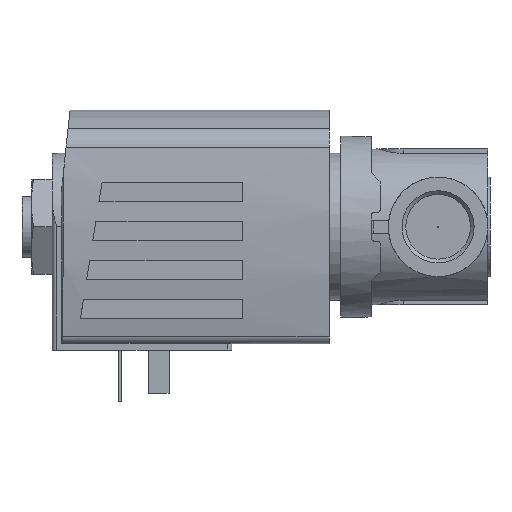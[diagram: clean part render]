
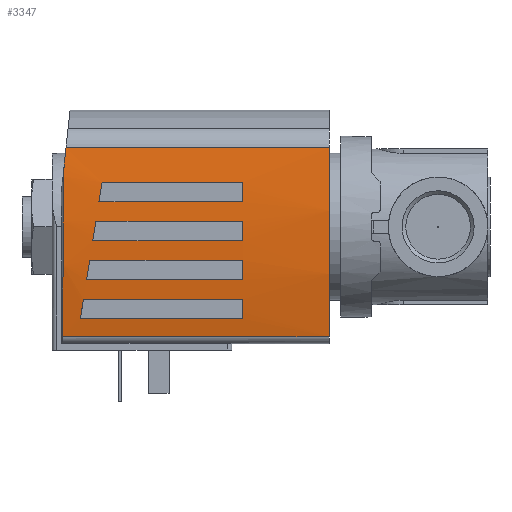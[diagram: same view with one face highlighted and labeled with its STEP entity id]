
A CAD part, left-side view. The second image highlights one B-rep face of the part: STEP entity #3347.
In plain terms, the highlighted cylindrical face has radius 130 mm (diameter 260 mm), a partial arc.
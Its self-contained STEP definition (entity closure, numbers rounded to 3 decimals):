
#50=ELLIPSE('',#3541,130.497,130.);
#51=ELLIPSE('',#3543,131.628,130.);
#52=ELLIPSE('',#3545,131.628,130.);
#53=ELLIPSE('',#3548,130.716,130.);
#54=ELLIPSE('',#3549,131.628,130.);
#55=ELLIPSE('',#3551,131.628,130.);
#110=CYLINDRICAL_SURFACE('',#3542,130.);
#155=CIRCLE('',#3544,130.);
#156=CIRCLE('',#3546,130.);
#157=CIRCLE('',#3547,130.);
#158=CIRCLE('',#3550,130.);
#159=CIRCLE('',#3552,130.);
#298=ORIENTED_EDGE('',*,*,#1060,.F.);
#299=ORIENTED_EDGE('',*,*,#1061,.F.);
#300=ORIENTED_EDGE('',*,*,#1062,.F.);
#301=ORIENTED_EDGE('',*,*,#1063,.F.);
#302=ORIENTED_EDGE('',*,*,#1064,.F.);
#303=ORIENTED_EDGE('',*,*,#1065,.F.);
#304=ORIENTED_EDGE('',*,*,#1066,.F.);
#305=ORIENTED_EDGE('',*,*,#1067,.F.);
#306=ORIENTED_EDGE('',*,*,#1058,.F.);
#307=ORIENTED_EDGE('',*,*,#1051,.T.);
#308=ORIENTED_EDGE('',*,*,#1068,.T.);
#309=ORIENTED_EDGE('',*,*,#1069,.F.);
#310=ORIENTED_EDGE('',*,*,#1070,.F.);
#311=ORIENTED_EDGE('',*,*,#1071,.F.);
#312=ORIENTED_EDGE('',*,*,#1072,.F.);
#313=ORIENTED_EDGE('',*,*,#1073,.F.);
#314=ORIENTED_EDGE('',*,*,#1074,.F.);
#315=ORIENTED_EDGE('',*,*,#1075,.F.);
#316=ORIENTED_EDGE('',*,*,#1076,.F.);
#317=ORIENTED_EDGE('',*,*,#1077,.F.);
#318=ORIENTED_EDGE('',*,*,#1078,.F.);
#1051=EDGE_CURVE('',#1433,#1432,#1688,.T.);
#1058=EDGE_CURVE('',#1433,#1438,#50,.T.);
#1060=EDGE_CURVE('',#1439,#1440,#51,.T.);
#1061=EDGE_CURVE('',#1441,#1439,#1692,.F.);
#1062=EDGE_CURVE('',#1442,#1441,#155,.T.);
#1063=EDGE_CURVE('',#1440,#1442,#1693,.T.);
#1064=EDGE_CURVE('',#1443,#1444,#1694,.T.);
#1065=EDGE_CURVE('',#1445,#1443,#52,.T.);
#1066=EDGE_CURVE('',#1446,#1445,#1695,.F.);
#1067=EDGE_CURVE('',#1444,#1446,#156,.T.);
#1068=EDGE_CURVE('',#1432,#1447,#157,.T.);
#1069=EDGE_CURVE('',#1448,#1447,#1696,.T.);
#1070=EDGE_CURVE('',#1438,#1448,#53,.T.);
#1071=EDGE_CURVE('',#1449,#1450,#54,.T.);
#1072=EDGE_CURVE('',#1451,#1449,#1697,.F.);
#1073=EDGE_CURVE('',#1452,#1451,#158,.T.);
#1074=EDGE_CURVE('',#1450,#1452,#1698,.T.);
#1075=EDGE_CURVE('',#1453,#1454,#55,.T.);
#1076=EDGE_CURVE('',#1455,#1453,#1699,.F.);
#1077=EDGE_CURVE('',#1456,#1455,#159,.T.);
#1078=EDGE_CURVE('',#1454,#1456,#1700,.T.);
#1432=VERTEX_POINT('',#4737);
#1433=VERTEX_POINT('',#4739);
#1438=VERTEX_POINT('',#4753);
#1439=VERTEX_POINT('',#4757);
#1440=VERTEX_POINT('',#4758);
#1441=VERTEX_POINT('',#4760);
#1442=VERTEX_POINT('',#4762);
#1443=VERTEX_POINT('',#4765);
#1444=VERTEX_POINT('',#4766);
#1445=VERTEX_POINT('',#4768);
#1446=VERTEX_POINT('',#4770);
#1447=VERTEX_POINT('',#4773);
#1448=VERTEX_POINT('',#4775);
#1449=VERTEX_POINT('',#4778);
#1450=VERTEX_POINT('',#4779);
#1451=VERTEX_POINT('',#4781);
#1452=VERTEX_POINT('',#4783);
#1453=VERTEX_POINT('',#4786);
#1454=VERTEX_POINT('',#4787);
#1455=VERTEX_POINT('',#4789);
#1456=VERTEX_POINT('',#4791);
#1688=LINE('',#4738,#1917);
#1692=LINE('',#4759,#1921);
#1693=LINE('',#4763,#1922);
#1694=LINE('',#4764,#1923);
#1695=LINE('',#4769,#1924);
#1696=LINE('',#4774,#1925);
#1697=LINE('',#4780,#1926);
#1698=LINE('',#4784,#1927);
#1699=LINE('',#4788,#1928);
#1700=LINE('',#4792,#1929);
#1917=VECTOR('',#3880,1000.);
#1921=VECTOR('',#3902,1000.);
#1922=VECTOR('',#3905,1000.);
#1923=VECTOR('',#3906,1000.);
#1924=VECTOR('',#3909,1000.);
#1925=VECTOR('',#3914,1000.);
#1926=VECTOR('',#3919,1000.);
#1927=VECTOR('',#3922,1000.);
#1928=VECTOR('',#3925,1000.);
#1929=VECTOR('',#3928,1000.);
#2125=EDGE_LOOP('',(#298,#299,#300,#301));
#2126=EDGE_LOOP('',(#302,#303,#304,#305));
#2127=EDGE_LOOP('',(#306,#307,#308,#309,#310));
#2128=EDGE_LOOP('',(#311,#312,#313,#314));
#2129=EDGE_LOOP('',(#315,#316,#317,#318));
#2341=FACE_BOUND('',#2125,.T.);
#2342=FACE_BOUND('',#2126,.T.);
#2343=FACE_BOUND('',#2127,.T.);
#2344=FACE_BOUND('',#2128,.T.);
#2345=FACE_BOUND('',#2129,.T.);
#3347=ADVANCED_FACE('',(#2341,#2342,#2343,#2344,#2345),#110,.T.);
#3541=AXIS2_PLACEMENT_3D('',#4752,#3895,#3896);
#3542=AXIS2_PLACEMENT_3D('',#4755,#3898,#3899);
#3543=AXIS2_PLACEMENT_3D('',#4756,#3900,#3901);
#3544=AXIS2_PLACEMENT_3D('',#4761,#3903,#3904);
#3545=AXIS2_PLACEMENT_3D('',#4767,#3907,#3908);
#3546=AXIS2_PLACEMENT_3D('',#4771,#3910,#3911);
#3547=AXIS2_PLACEMENT_3D('',#4772,#3912,#3913);
#3548=AXIS2_PLACEMENT_3D('',#4776,#3915,#3916);
#3549=AXIS2_PLACEMENT_3D('',#4777,#3917,#3918);
#3550=AXIS2_PLACEMENT_3D('',#4782,#3920,#3921);
#3551=AXIS2_PLACEMENT_3D('',#4785,#3923,#3924);
#3552=AXIS2_PLACEMENT_3D('',#4790,#3926,#3927);
#3880=DIRECTION('',(0.,-1.,0.));
#3895=DIRECTION('',(0.,0.996,0.087));
#3896=DIRECTION('',(0.,-0.087,0.996));
#3898=DIRECTION('',(0.,-1.,0.));
#3899=DIRECTION('',(0.,0.,-1.));
#3900=DIRECTION('',(-0.157,-0.988,0.));
#3901=DIRECTION('',(0.988,-0.157,0.));
#3902=DIRECTION('',(0.,-1.,0.));
#3903=DIRECTION('',(0.,1.,0.));
#3904=DIRECTION('',(0.,0.,1.));
#3905=DIRECTION('',(0.,-1.,0.));
#3906=DIRECTION('',(0.,-1.,0.));
#3907=DIRECTION('',(-0.157,-0.988,0.));
#3908=DIRECTION('',(0.988,-0.157,0.));
#3909=DIRECTION('',(0.,-1.,0.));
#3910=DIRECTION('',(0.,1.,0.));
#3911=DIRECTION('',(0.,0.,1.));
#3912=DIRECTION('',(0.,1.,0.));
#3913=DIRECTION('',(1.,0.,0.));
#3914=DIRECTION('',(0.,-1.,0.));
#3915=DIRECTION('',(0.105,0.995,0.));
#3916=DIRECTION('',(0.995,-0.105,0.));
#3917=DIRECTION('',(-0.157,-0.988,0.));
#3918=DIRECTION('',(0.988,-0.157,0.));
#3919=DIRECTION('',(0.,-1.,0.));
#3920=DIRECTION('',(0.,1.,0.));
#3921=DIRECTION('',(0.,0.,1.));
#3922=DIRECTION('',(0.,-1.,0.));
#3923=DIRECTION('',(-0.157,-0.988,0.));
#3924=DIRECTION('',(0.988,-0.157,0.));
#3925=DIRECTION('',(0.,-1.,0.));
#3926=DIRECTION('',(0.,1.,0.));
#3927=DIRECTION('',(0.,0.,1.));
#3928=DIRECTION('',(0.,-1.,0.));
#4737=CARTESIAN_POINT('',(-25.391,-39.4,18.646));
#4738=CARTESIAN_POINT('',(-25.391,22.6,18.646));
#4739=CARTESIAN_POINT('',(-25.391,22.281,18.646));
#4752=CARTESIAN_POINT('',(0.,33.435,-108.85));
#4753=CARTESIAN_POINT('',(11.681,22.108,20.624));
#4755=CARTESIAN_POINT('',(0.,22.6,-108.85));
#4756=CARTESIAN_POINT('',(0.,14.727,-108.85));
#4757=CARTESIAN_POINT('',(1.25,14.529,21.144));
#4758=CARTESIAN_POINT('',(-3.25,15.243,21.109));
#4759=CARTESIAN_POINT('',(1.25,22.6,21.144));
#4760=CARTESIAN_POINT('',(1.25,-19.4,21.144));
#4761=CARTESIAN_POINT('',(0.,-19.4,-108.85));
#4762=CARTESIAN_POINT('',(-3.25,-19.4,21.109));
#4763=CARTESIAN_POINT('',(-3.25,22.6,21.109));
#4764=CARTESIAN_POINT('',(-21.25,22.6,19.401));
#4765=CARTESIAN_POINT('',(-21.25,18.1,19.401));
#4766=CARTESIAN_POINT('',(-21.25,-19.4,19.401));
#4767=CARTESIAN_POINT('',(0.,14.727,-108.85));
#4768=CARTESIAN_POINT('',(-16.75,17.386,20.066));
#4769=CARTESIAN_POINT('',(-16.75,22.6,20.066));
#4770=CARTESIAN_POINT('',(-16.75,-19.4,20.066));
#4771=CARTESIAN_POINT('',(0.,-19.4,-108.85));
#4772=CARTESIAN_POINT('',(0.,-39.4,-108.85));
#4773=CARTESIAN_POINT('',(18.286,-39.4,19.857));
#4774=CARTESIAN_POINT('',(18.286,22.6,19.857));
#4775=CARTESIAN_POINT('',(18.286,21.414,19.857));
#4776=CARTESIAN_POINT('',(0.,23.336,-108.85));
#4777=CARTESIAN_POINT('',(0.,14.727,-108.85));
#4778=CARTESIAN_POINT('',(-7.75,15.957,20.919));
#4779=CARTESIAN_POINT('',(-12.25,16.671,20.572));
#4780=CARTESIAN_POINT('',(-7.75,22.6,20.919));
#4781=CARTESIAN_POINT('',(-7.75,-19.4,20.919));
#4782=CARTESIAN_POINT('',(0.,-19.4,-108.85));
#4783=CARTESIAN_POINT('',(-12.25,-19.4,20.572));
#4784=CARTESIAN_POINT('',(-12.25,22.6,20.572));
#4785=CARTESIAN_POINT('',(0.,14.727,-108.85));
#4786=CARTESIAN_POINT('',(10.25,13.1,20.745));
#4787=CARTESIAN_POINT('',(5.75,13.814,21.023));
#4788=CARTESIAN_POINT('',(10.25,22.6,20.745));
#4789=CARTESIAN_POINT('',(10.25,-19.4,20.745));
#4790=CARTESIAN_POINT('',(0.,-19.4,-108.85));
#4791=CARTESIAN_POINT('',(5.75,-19.4,21.023));
#4792=CARTESIAN_POINT('',(5.75,22.6,21.023));
